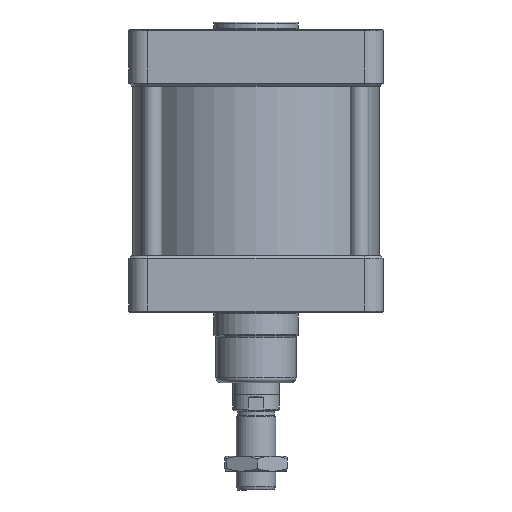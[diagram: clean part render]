
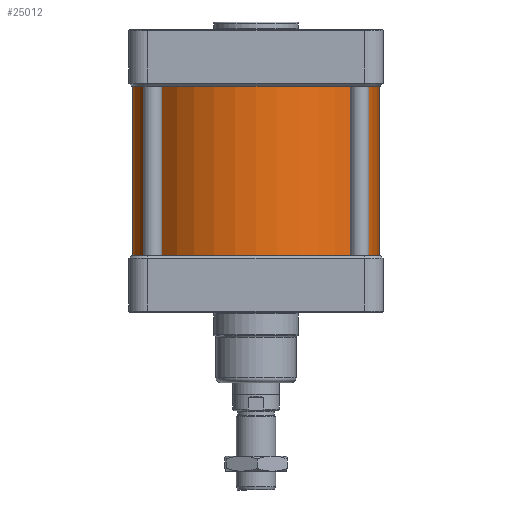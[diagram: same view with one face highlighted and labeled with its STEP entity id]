
A CAD part, front view. The second image highlights one B-rep face of the part: STEP entity #25012.
In plain terms, the highlighted cylindrical face has radius 131 mm (diameter 262 mm), a full revolution.
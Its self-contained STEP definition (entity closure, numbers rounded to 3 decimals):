
#2234=LINE('',#43870,#3025);
#3025=VECTOR('',#29768,1000.);
#6059=ORIENTED_EDGE('',*,*,#9876,.F.);
#6060=ORIENTED_EDGE('',*,*,#9879,.T.);
#6061=ORIENTED_EDGE('',*,*,#9880,.F.);
#6062=ORIENTED_EDGE('',*,*,#9879,.F.);
#9876=EDGE_CURVE('',#11909,#11909,#13088,.T.);
#9879=EDGE_CURVE('',#11909,#11911,#2234,.T.);
#9880=EDGE_CURVE('',#11911,#11911,#13090,.T.);
#11909=VERTEX_POINT('',#43864);
#11911=VERTEX_POINT('',#43871);
#13088=CIRCLE('',#26565,131.);
#13090=CIRCLE('',#26569,131.);
#14106=EDGE_LOOP('',(#6059,#6060,#6061,#6062));
#15374=FACE_BOUND('',#14106,.T.);
#16185=CYLINDRICAL_SURFACE('',#26568,131.);
#25012=ADVANCED_FACE('',(#15374),#16185,.T.);
#26565=AXIS2_PLACEMENT_3D('',#43863,#29759,#29760);
#26568=AXIS2_PLACEMENT_3D('',#43869,#29766,#29767);
#26569=AXIS2_PLACEMENT_3D('',#43872,#29769,#29770);
#29759=DIRECTION('',(0.,1.,0.));
#29760=DIRECTION('',(1.,0.,0.));
#29766=DIRECTION('',(0.,1.,0.));
#29767=DIRECTION('',(1.,0.,0.));
#29768=DIRECTION('',(0.,-1.,0.));
#29769=DIRECTION('',(0.,-1.,0.));
#29770=DIRECTION('',(1.,0.,0.));
#43863=CARTESIAN_POINT('',(0.,52.3,0.));
#43864=CARTESIAN_POINT('',(-131.,52.3,0.));
#43869=CARTESIAN_POINT('',(0.,0.,0.));
#43870=CARTESIAN_POINT('',(-131.,0.,0.));
#43871=CARTESIAN_POINT('',(-131.,-127.3,0.));
#43872=CARTESIAN_POINT('',(0.,-127.3,0.));
